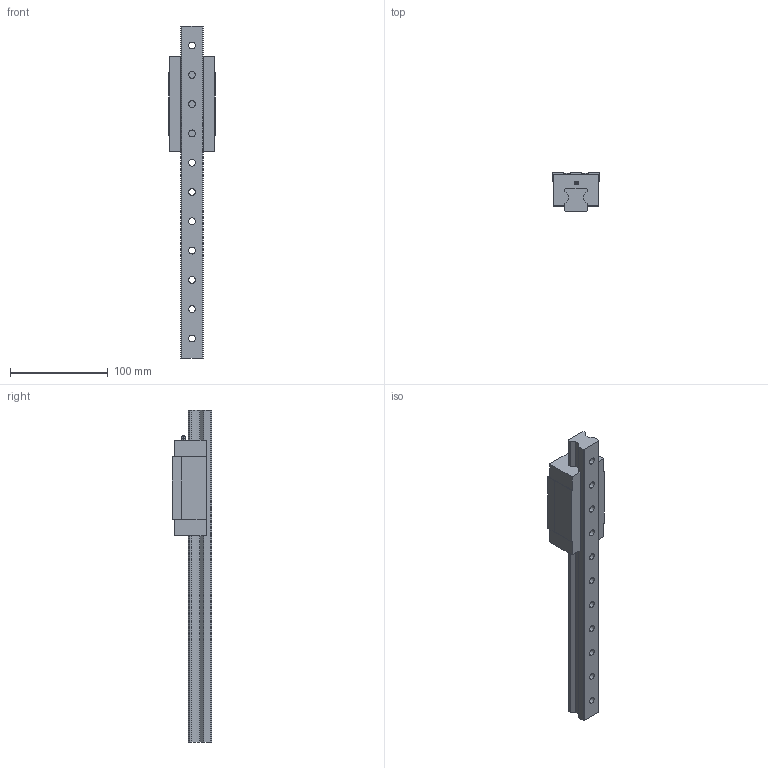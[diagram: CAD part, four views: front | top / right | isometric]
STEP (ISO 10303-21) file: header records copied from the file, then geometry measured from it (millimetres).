
FILE_DESCRIPTION(('STEP AP214'),'1');
FILE_NAME('D:/ModelConvertServices/SVC.ACISConvertServices001/output/59369375-a0a4-4cca-a3c8-b6ec2ba2cddb/1_RGH25CA1R340ZOH.step','2022-07-22T10:25:37',(' '),(' '),'Spatial InterOp 3D',' ',' ');
FILE_SCHEMA(('automotive_design'));
Length unit declared in the file: millimetre
Products named in the file (2): 1; 2
Bounding box: 48 x 40 x 340 mm (x, y, z)
Volume: 264450.7 mm3; surface area: 63990.5 mm2
Topology: 2 solids, 2 shells, 264 faces, 653 edges, 424 vertices
Faces by surface type: plane 136, cylinder 96, cone 30, sphere 2
Entity records: 10042 total; most frequent: CARTESIAN_POINT 1501, DIRECTION 1363, ORIENTED_EDGE 1302, EDGE_CURVE 651, AXIS2_PLACEMENT_3D 494, VERTEX_POINT 424, LINE 375, VECTOR 375
